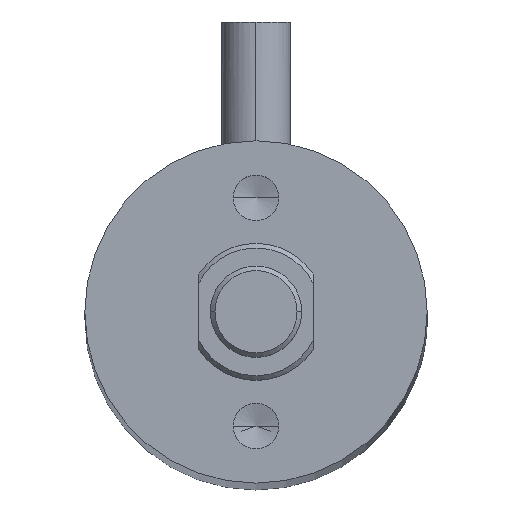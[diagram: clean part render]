
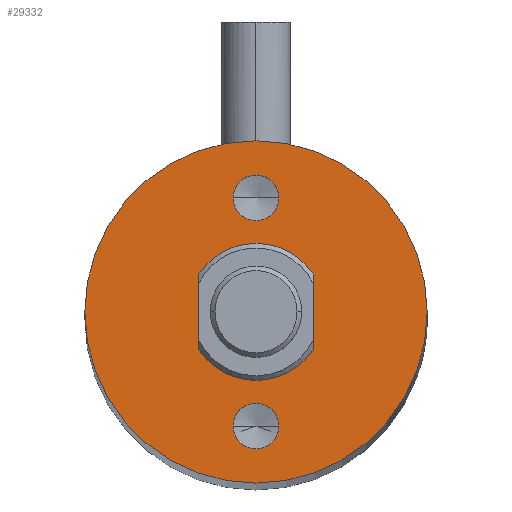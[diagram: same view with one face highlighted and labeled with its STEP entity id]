
A CAD part, top view. The second image highlights one B-rep face of the part: STEP entity #29332.
In plain terms, the highlighted planar face has unit normal (0, 0, 1).
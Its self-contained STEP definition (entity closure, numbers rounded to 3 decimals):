
#225 = CARTESIAN_POINT ( 'NONE',  ( 2.5, -1.658, 172.6 ) ) ;
#453 = EDGE_CURVE ( 'NONE', #45587, #25119, #26593, .T. ) ;
#793 = VERTEX_POINT ( 'NONE', #28005 ) ;
#837 = AXIS2_PLACEMENT_3D ( 'NONE', #26798, #14263, #30352 ) ;
#1642 = LINE ( 'NONE', #43722, #6065 ) ;
#2395 = EDGE_CURVE ( 'NONE', #19540, #793, #43063, .T. ) ;
#2657 = PLANE ( 'NONE',  #6899 ) ;
#3825 = DIRECTION ( 'NONE',  ( 1., 0., 0. ) ) ;
#4489 = CARTESIAN_POINT ( 'NONE',  ( -2.5, -6.39, 172.6 ) ) ;
#5450 = CIRCLE ( 'NONE', #27131, 7.5 ) ;
#5502 = EDGE_CURVE ( 'NONE', #41914, #14080, #36020, .T. ) ;
#6065 = VECTOR ( 'NONE', #22957, 1000. ) ;
#6510 = AXIS2_PLACEMENT_3D ( 'NONE', #11935, #15987, #44333 ) ;
#6540 = FACE_OUTER_BOUND ( 'NONE', #24768, .T. ) ;
#6899 = AXIS2_PLACEMENT_3D ( 'NONE', #50526, #14042, #26228 ) ;
#7898 = DIRECTION ( 'NONE',  ( 0., 0., 1. ) ) ;
#9646 = EDGE_CURVE ( 'NONE', #43328, #14634, #19509, .T. ) ;
#10622 = ORIENTED_EDGE ( 'NONE', *, *, #39078, .F. ) ;
#11935 = CARTESIAN_POINT ( 'NONE',  ( 0., -5., 172.6 ) ) ;
#13693 = CARTESIAN_POINT ( 'NONE',  ( 0., 0., 172.6 ) ) ;
#13908 = EDGE_CURVE ( 'NONE', #44878, #37675, #21942, .T. ) ;
#14042 = DIRECTION ( 'NONE',  ( 0., 0., 1. ) ) ;
#14080 = VERTEX_POINT ( 'NONE', #52283 ) ;
#14263 = DIRECTION ( 'NONE',  ( 0., 0., 1. ) ) ;
#14610 = CARTESIAN_POINT ( 'NONE',  ( -1., 5., 172.6 ) ) ;
#14634 = VERTEX_POINT ( 'NONE', #15338 ) ;
#14987 = DIRECTION ( 'NONE',  ( 1., 0., 0. ) ) ;
#15097 = ORIENTED_EDGE ( 'NONE', *, *, #453, .F. ) ;
#15338 = CARTESIAN_POINT ( 'NONE',  ( 7.5, 0., 172.6 ) ) ;
#15418 = EDGE_LOOP ( 'NONE', ( #10622, #35677 ) ) ;
#15746 = CIRCLE ( 'NONE', #25335, 1. ) ;
#15987 = DIRECTION ( 'NONE',  ( 0., 0., 1. ) ) ;
#16040 = FACE_BOUND ( 'NONE', #15418, .T. ) ;
#16576 = AXIS2_PLACEMENT_3D ( 'NONE', #22145, #46802, #42170 ) ;
#17171 = EDGE_CURVE ( 'NONE', #14634, #43328, #5450, .T. ) ;
#17581 = DIRECTION ( 'NONE',  ( 0., 0., 1. ) ) ;
#17941 = FACE_BOUND ( 'NONE', #26913, .T. ) ;
#18081 = ORIENTED_EDGE ( 'NONE', *, *, #13908, .F. ) ;
#18551 = EDGE_CURVE ( 'NONE', #45587, #37675, #1642, .T. ) ;
#18913 = EDGE_LOOP ( 'NONE', ( #23675, #18081, #31852, #15097 ) ) ;
#18995 = ORIENTED_EDGE ( 'NONE', *, *, #9646, .T. ) ;
#19509 = CIRCLE ( 'NONE', #31099, 7.5 ) ;
#19540 = VERTEX_POINT ( 'NONE', #14610 ) ;
#20038 = ORIENTED_EDGE ( 'NONE', *, *, #17171, .T. ) ;
#21272 = DIRECTION ( 'NONE',  ( 1., 0., 0. ) ) ;
#21942 = CIRCLE ( 'NONE', #16576, 3. ) ;
#22145 = CARTESIAN_POINT ( 'NONE',  ( 0., 0., 172.6 ) ) ;
#22582 = CARTESIAN_POINT ( 'NONE',  ( 0., 0., 172.6 ) ) ;
#22957 = DIRECTION ( 'NONE',  ( 0., -1., 0. ) ) ;
#23675 = ORIENTED_EDGE ( 'NONE', *, *, #18551, .T. ) ;
#24768 = EDGE_LOOP ( 'NONE', ( #18995, #20038 ) ) ;
#25119 = VERTEX_POINT ( 'NONE', #39866 ) ;
#25183 = EDGE_CURVE ( 'NONE', #14080, #41914, #42694, .T. ) ;
#25335 = AXIS2_PLACEMENT_3D ( 'NONE', #48289, #7898, #3825 ) ;
#26228 = DIRECTION ( 'NONE',  ( 1., 0., 0. ) ) ;
#26593 = CIRCLE ( 'NONE', #42893, 3. ) ;
#26798 = CARTESIAN_POINT ( 'NONE',  ( 0., 5., 172.6 ) ) ;
#26828 = CARTESIAN_POINT ( 'NONE',  ( -2.5, -1.658, 172.6 ) ) ;
#26913 = EDGE_LOOP ( 'NONE', ( #31557, #28412 ) ) ;
#27131 = AXIS2_PLACEMENT_3D ( 'NONE', #47386, #39195, #14987 ) ;
#27424 = CARTESIAN_POINT ( 'NONE',  ( -7.5, 0., 172.6 ) ) ;
#27460 = VECTOR ( 'NONE', #32987, 1000. ) ;
#27489 = EDGE_CURVE ( 'NONE', #44878, #25119, #38191, .T. ) ;
#28005 = CARTESIAN_POINT ( 'NONE',  ( 1., 5., 172.6 ) ) ;
#28412 = ORIENTED_EDGE ( 'NONE', *, *, #5502, .F. ) ;
#29332 = ADVANCED_FACE ( 'NONE', ( #42644, #6540, #17941, #16040 ), #2657, .T. ) ;
#30352 = DIRECTION ( 'NONE',  ( 1., 0., 0. ) ) ;
#30646 = DIRECTION ( 'NONE',  ( 0., 0., 1. ) ) ;
#31099 = AXIS2_PLACEMENT_3D ( 'NONE', #22582, #47059, #50807 ) ;
#31557 = ORIENTED_EDGE ( 'NONE', *, *, #25183, .F. ) ;
#31852 = ORIENTED_EDGE ( 'NONE', *, *, #27489, .T. ) ;
#32161 = CARTESIAN_POINT ( 'NONE',  ( 0., -5., 172.6 ) ) ;
#32987 = DIRECTION ( 'NONE',  ( 0., 1., 0. ) ) ;
#34117 = AXIS2_PLACEMENT_3D ( 'NONE', #32161, #17581, #21272 ) ;
#35677 = ORIENTED_EDGE ( 'NONE', *, *, #2395, .F. ) ;
#36020 = CIRCLE ( 'NONE', #34117, 1. ) ;
#37675 = VERTEX_POINT ( 'NONE', #225 ) ;
#37676 = CARTESIAN_POINT ( 'NONE',  ( -1., -5., 172.6 ) ) ;
#38191 = LINE ( 'NONE', #4489, #27460 ) ;
#38418 = DIRECTION ( 'NONE',  ( 1., 0., 0. ) ) ;
#39078 = EDGE_CURVE ( 'NONE', #793, #19540, #15746, .T. ) ;
#39195 = DIRECTION ( 'NONE',  ( 0., 0., 1. ) ) ;
#39866 = CARTESIAN_POINT ( 'NONE',  ( -2.5, 1.658, 172.6 ) ) ;
#41914 = VERTEX_POINT ( 'NONE', #37676 ) ;
#42170 = DIRECTION ( 'NONE',  ( 1., 0., 0. ) ) ;
#42423 = CARTESIAN_POINT ( 'NONE',  ( 2.5, 1.658, 172.6 ) ) ;
#42644 = FACE_BOUND ( 'NONE', #18913, .T. ) ;
#42694 = CIRCLE ( 'NONE', #6510, 1. ) ;
#42893 = AXIS2_PLACEMENT_3D ( 'NONE', #13693, #30646, #38418 ) ;
#43063 = CIRCLE ( 'NONE', #837, 1. ) ;
#43328 = VERTEX_POINT ( 'NONE', #27424 ) ;
#43722 = CARTESIAN_POINT ( 'NONE',  ( 2.5, -6.39, 172.6 ) ) ;
#44333 = DIRECTION ( 'NONE',  ( 1., 0., 0. ) ) ;
#44878 = VERTEX_POINT ( 'NONE', #26828 ) ;
#45587 = VERTEX_POINT ( 'NONE', #42423 ) ;
#46802 = DIRECTION ( 'NONE',  ( 0., 0., 1. ) ) ;
#47059 = DIRECTION ( 'NONE',  ( 0., 0., 1. ) ) ;
#47386 = CARTESIAN_POINT ( 'NONE',  ( 0., 0., 172.6 ) ) ;
#48289 = CARTESIAN_POINT ( 'NONE',  ( 0., 5., 172.6 ) ) ;
#50526 = CARTESIAN_POINT ( 'NONE',  ( 0., 0., 172.6 ) ) ;
#50807 = DIRECTION ( 'NONE',  ( 1., 0., 0. ) ) ;
#52283 = CARTESIAN_POINT ( 'NONE',  ( 1., -5., 172.6 ) ) ;
